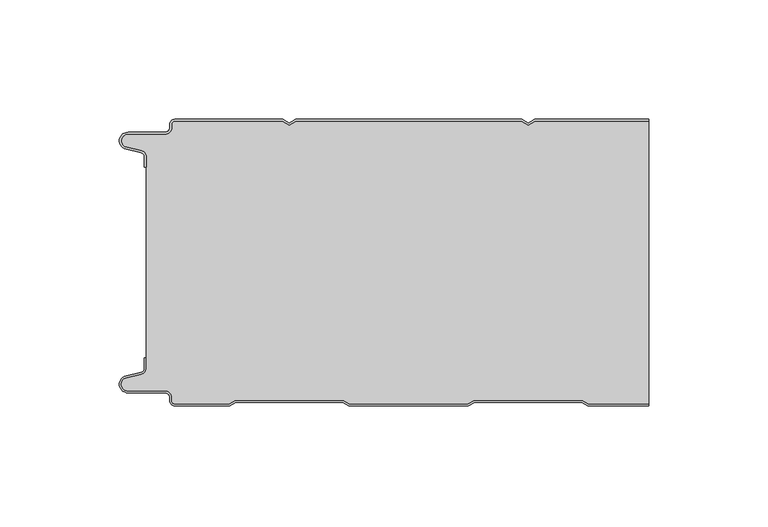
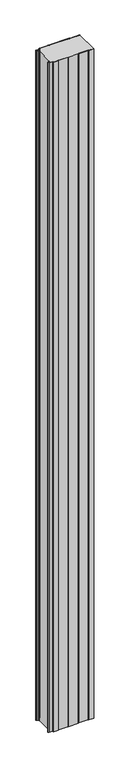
"""IFC4 building model written with IfcOpenShell, lengths in millimetres: plate geometry, PMH_Curtain-PaneL-Standard : ACH_PMH_Stone-wool-Panel_120M."""

from ifc_helpers import new_model, si_unit, point, frame_2d, origin, origin_with_axes, place, context, project, spatial, polyline, circle_curve, trimmed, segment, composite_curve, outline, extrude, source, transform, mapped, element, save


def plate_fe154885(model_context):
    return source(origin(), model_context, "Body", "SweptSolid", [
        extrude(outline(composite_curve([segment(trimmed(circle_curve(frame_2d((-102.0, -15.878557)), 2.0), [point((-100.0, -15.878557))], [point((-101.5500978, -13.9298169))], True, "CARTESIAN"), True, "CONTINUOUS"), segment(polyline([(-101.5500978, -13.9298169), (-107.7098239, -12.507732)]), True, "CONTINUOUS"), segment(trimmed(circle_curve(frame_2d((-106.9, -9.0)), 3.6), [point((-107.7098239, -12.507732))], [point((-106.9, -5.4))], False, "CARTESIAN"), True, "CONTINUOUS"), segment(polyline([(-106.9, -5.4), (-91.4, -5.4)]), True, "CONTINUOUS"), segment(trimmed(circle_curve(frame_2d((-91.4, -3.4)), 2.0), [point((-91.4, -5.4))], [point((-89.4, -3.4))], True, "CARTESIAN"), True, "CONTINUOUS"), segment(polyline([(-89.4, -3.4), (-89.4, -2.0)]), True, "CONTINUOUS"), segment(trimmed(circle_curve(frame_2d((-87.4, -2.0)), 2.0), [point((-89.4, -2.0))], [point((-87.4, 0.0))], False, "CARTESIAN"), True, "CONTINUOUS"), segment(polyline([(-87.4, 0.0), (-42.0999995, 0.0), (-39.4, -1.5588455), (-36.7000005, 0.0), (57.9000005, 0.0), (60.6, -1.5588455), (63.2999995, 0.0), (111.0, 0.0), (111.0, -0.8), (63.5143588, -0.8), (60.6, -2.482606), (57.6856412, -0.8), (-36.4856412, -0.8), (-39.4, -2.482606), (-42.3143588, -0.8), (-87.4, -0.8)]), True, "CONTINUOUS"), segment(trimmed(circle_curve(frame_2d((-87.4, -2.0)), 1.2), [point((-87.4, -0.8))], [point((-88.6, -2.0))], True, "CARTESIAN"), True, "CONTINUOUS"), segment(polyline([(-88.6, -2.0), (-88.6, -3.4)]), True, "CONTINUOUS"), segment(trimmed(circle_curve(frame_2d((-91.4, -3.4)), 2.8), [point((-88.6, -3.4))], [point((-91.4, -6.2))], False, "CARTESIAN"), True, "CONTINUOUS"), segment(polyline([(-91.4, -6.2), (-106.9, -6.2)]), True, "CONTINUOUS"), segment(trimmed(circle_curve(frame_2d((-106.9, -9.0)), 2.8), [point((-106.9, -6.2))], [point((-107.529863, -11.7282362))], True, "CARTESIAN"), True, "CONTINUOUS"), segment(polyline([(-107.529863, -11.7282362), (-101.370137, -13.150321)]), True, "CONTINUOUS"), segment(trimmed(circle_curve(frame_2d((-102.0, -15.878557)), 2.8), [point((-101.370137, -13.150321))], [point((-99.2, -15.878557))], False, "CARTESIAN"), True, "CONTINUOUS"), segment(polyline([(-99.2, -15.878557), (-99.2, -20.0), (-100.0, -20.0), (-100.0, -15.878557)]), True, "CONTINUOUS")], self_intersect=False)), origin_with_axes(), (0.0, 0.0, 1.0), 3500.0),
        extrude(outline(composite_curve([segment(polyline([(-99.2, -104.121443), (-99.2, -15.8785573)]), True, "CONTINUOUS"), segment(trimmed(circle_curve(frame_2d((-102.0, -15.8785573)), 2.8), [point((-99.2, -15.8785573))], [point((-101.370137, -13.1503212))], True, "CARTESIAN"), True, "CONTINUOUS"), segment(polyline([(-101.370137, -13.1503212), (-107.5298631, -11.7282362)]), True, "CONTINUOUS"), segment(trimmed(circle_curve(frame_2d((-106.9, -9.0)), 2.8), [point((-107.5298631, -11.7282362))], [point((-106.9, -6.2))], False, "CARTESIAN"), True, "CONTINUOUS"), segment(polyline([(-106.9, -6.2), (-91.4000001, -6.2)]), True, "CONTINUOUS"), segment(trimmed(circle_curve(frame_2d((-91.4000001, -3.4)), 2.8), [point((-91.4000001, -6.2))], [point((-88.6000001, -3.4))], True, "CARTESIAN"), True, "CONTINUOUS"), segment(polyline([(-88.6000001, -3.4), (-88.6000001, -2.0)]), True, "CONTINUOUS"), segment(trimmed(circle_curve(frame_2d((-87.4000001, -2.0)), 1.2), [point((-88.6000001, -2.0))], [point((-87.4000001, -0.8))], False, "CARTESIAN"), True, "CONTINUOUS"), segment(polyline([(-87.4000001, -0.8), (-42.3143589, -0.8), (-39.4000001, -2.482606), (-36.4856412, -0.8), (57.6856411, -0.8), (60.5999999, -2.482606), (63.5143588, -0.8), (111.0, -0.8), (111.0, -119.2), (85.8105122, -119.2), (83.2124346, -117.7), (37.9837184, -117.7), (35.3856408, -119.2), (-14.1894878, -119.2), (-16.7875654, -117.7), (-62.0162816, -117.7), (-64.6143592, -119.2), (-87.4, -119.2)]), True, "CONTINUOUS"), segment(trimmed(circle_curve(frame_2d((-87.4, -118.0)), 1.2), [point((-87.4, -119.2))], [point((-88.6, -118.0))], False, "CARTESIAN"), True, "CONTINUOUS"), segment(polyline([(-88.6, -118.0), (-88.6, -116.5999998)]), True, "CONTINUOUS"), segment(trimmed(circle_curve(frame_2d((-91.4, -116.5999998)), 2.8), [point((-88.6, -116.5999998))], [point((-91.4, -113.7999998))], True, "CARTESIAN"), True, "CONTINUOUS"), segment(polyline([(-91.4, -113.7999998), (-106.9, -113.7999998)]), True, "CONTINUOUS"), segment(trimmed(circle_curve(frame_2d((-106.9, -111.0)), 2.7999998), [point((-106.9, -113.7999998))], [point((-107.529863, -108.271764))], False, "CARTESIAN"), True, "CONTINUOUS"), segment(polyline([(-107.529863, -108.271764), (-101.370137, -106.8496792)]), True, "CONTINUOUS"), segment(trimmed(circle_curve(frame_2d((-102.0, -104.121443)), 2.8), [point((-101.370137, -106.8496792))], [point((-99.2, -104.121443))], True, "CARTESIAN"), True, "CONTINUOUS")], self_intersect=False)), origin_with_axes(), (0.0, 0.0, 1.0), 3500.0),
        extrude(outline(composite_curve([segment(trimmed(circle_curve(frame_2d((-87.4, -118.0)), 2.0), [point((-87.4, -120.0))], [point((-89.4, -118.0))], False, "CARTESIAN"), True, "CONTINUOUS"), segment(polyline([(-89.4, -118.0), (-89.4, -116.6)]), True, "CONTINUOUS"), segment(trimmed(circle_curve(frame_2d((-91.4, -116.6)), 2.0), [point((-89.4, -116.6))], [point((-91.4, -114.6))], True, "CARTESIAN"), True, "CONTINUOUS"), segment(polyline([(-91.4, -114.6), (-106.9, -114.6)]), True, "CONTINUOUS"), segment(trimmed(circle_curve(frame_2d((-106.9, -111.0)), 3.6), [point((-106.9, -114.6))], [point((-107.7098239, -107.4922678))], False, "CARTESIAN"), True, "CONTINUOUS"), segment(polyline([(-107.7098239, -107.4922678), (-101.5500979, -106.070183)]), True, "CONTINUOUS"), segment(trimmed(circle_curve(frame_2d((-102.0, -104.121443)), 2.0), [point((-101.5500979, -106.070183))], [point((-100.0, -104.121443))], True, "CARTESIAN"), True, "CONTINUOUS"), segment(polyline([(-100.0, -104.121443), (-100.0, -100.0), (-99.2, -100.0), (-99.2, -104.121443)]), True, "CONTINUOUS"), segment(trimmed(circle_curve(frame_2d((-102.0, -104.121443)), 2.8), [point((-99.2, -104.121443))], [point((-101.370137, -106.8496792))], False, "CARTESIAN"), True, "CONTINUOUS"), segment(polyline([(-101.370137, -106.8496792), (-107.529863, -108.271764)]), True, "CONTINUOUS"), segment(trimmed(circle_curve(frame_2d((-106.9, -111.0)), 2.8), [point((-107.529863, -108.271764))], [point((-106.9, -113.8))], True, "CARTESIAN"), True, "CONTINUOUS"), segment(polyline([(-106.9, -113.8), (-91.4, -113.8)]), True, "CONTINUOUS"), segment(trimmed(circle_curve(frame_2d((-91.4, -116.6)), 2.8), [point((-91.4, -113.8))], [point((-88.6, -116.6))], False, "CARTESIAN"), True, "CONTINUOUS"), segment(polyline([(-88.6, -116.6), (-88.6, -118.0)]), True, "CONTINUOUS"), segment(trimmed(circle_curve(frame_2d((-87.4, -118.0)), 1.2), [point((-88.6, -118.0))], [point((-87.4, -119.2))], True, "CARTESIAN"), True, "CONTINUOUS"), segment(polyline([(-87.4, -119.2), (-64.6143592, -119.2), (-62.0162816, -117.7), (-16.7875654, -117.7), (-14.1894878, -119.2), (35.3856408, -119.2), (37.9837184, -117.7), (83.2124346, -117.7), (85.8105122, -119.2), (111.0, -119.2), (111.0, -120.0), (85.5961529, -120.0), (82.9980753, -118.5), (38.1980777, -118.5), (35.6000001, -120.0), (-14.4038471, -120.0), (-17.0019247, -118.5), (-61.8019223, -118.5), (-64.3999999, -120.0), (-87.4, -120.0)]), True, "CONTINUOUS")], self_intersect=False)), origin_with_axes(), (0.0, 0.0, 1.0), 3500.0),
    ])


if __name__ == "__main__":
    model = new_model("IFC4")
    model_context = context("Model", 3, world=origin())
    ifc_project = project(units=[si_unit("LENGTHUNIT", "METRE", prefix="MILLI")], contexts=[model_context])
    site = spatial("IfcSite", under=ifc_project)
    building = spatial("IfcBuilding", under=site)
    placement = place(None, origin())
    plate_shape = plate_fe154885(model_context)
    element("IfcPlate", 1, ObjectType="PMH_Curtain-PaneL-Standard : ACH_PMH_Stone-wool-Panel_120M", at=placement, inside=building, context=model_context, shape_type="MappedRepresentation", body=[
        mapped(plate_shape, transform((0.0, 0.0, 0.0), x_axis=(1.0, 0.0, 0.0), y_axis=(0.0, 1.0, 0.0), z_axis=(0.0, 0.0, 1.0))),
    ])
    save(model, "model.ifc")
